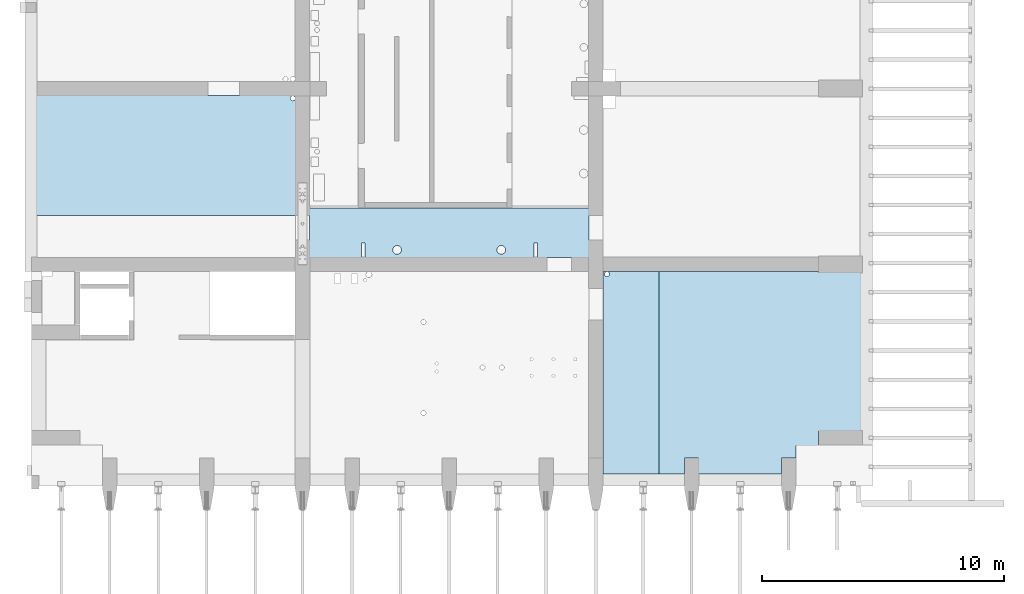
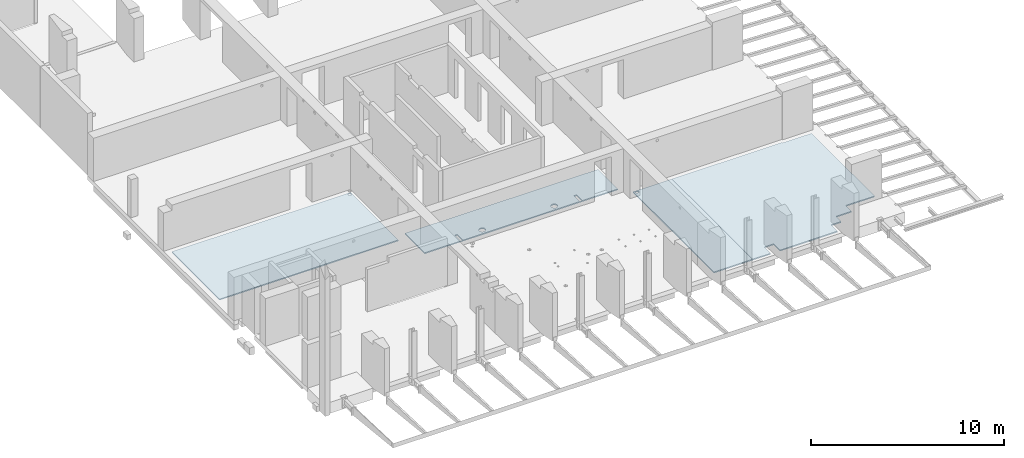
# One storey, part 17 of 27: 4 slabs, 54 openings.
"""IFC2X3 building model written with IfcOpenShell, lengths in millimetres."""

from ifc_helpers import new_model, entity, si_unit, converted_unit, derived_unit, direction, frame, frame_2d, origin, origin_2d_with_axis, place, context, subcontext, project, spatial, polyline, rectangle, circle, outline, extrude, material, layer, layer_set, layer_usage, element, save


model = new_model("IFC2X3")

# Units and contexts
model_context = context("Model", 3, precision=0.01, world=origin(), true_north=direction((6.12303176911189e-17, 1.0)))
body_context = subcontext(model_context, "Body", "Model", "MODEL_VIEW")
ifc_project = project(units=[si_unit("LENGTHUNIT", "METRE", prefix="MILLI"), si_unit("AREAUNIT", "SQUARE_METRE"), si_unit("VOLUMEUNIT", "CUBIC_METRE"), converted_unit("PLANEANGLEUNIT", "DEGREE", entity("IfcRatioMeasure", 0.0174532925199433), si_unit("PLANEANGLEUNIT", "RADIAN"), dimensions=[0, 0, 0, 0, 0, 0, 0]), si_unit("MASSUNIT", "GRAM", prefix="KILO"), derived_unit("MASSDENSITYUNIT", [(si_unit("MASSUNIT", "GRAM", prefix="KILO"), 1), (si_unit("LENGTHUNIT", "METRE"), -3)]), si_unit("TIMEUNIT", "SECOND"), si_unit("FREQUENCYUNIT", "HERTZ"), si_unit("THERMODYNAMICTEMPERATUREUNIT", "DEGREE_CELSIUS"), derived_unit("THERMALTRANSMITTANCEUNIT", [(si_unit("MASSUNIT", "GRAM", prefix="KILO"), 1), (si_unit("THERMODYNAMICTEMPERATUREUNIT", "KELVIN"), -1), (si_unit("TIMEUNIT", "SECOND"), -3)]), derived_unit("VOLUMETRICFLOWRATEUNIT", [(si_unit("LENGTHUNIT", "METRE"), 3), (si_unit("TIMEUNIT", "SECOND"), -1)]), si_unit("ELECTRICCURRENTUNIT", "AMPERE"), si_unit("ELECTRICVOLTAGEUNIT", "VOLT"), si_unit("POWERUNIT", "WATT"), si_unit("FORCEUNIT", "NEWTON", prefix="KILO"), si_unit("ILLUMINANCEUNIT", "LUX"), si_unit("LUMINOUSFLUXUNIT", "LUMEN"), si_unit("LUMINOUSINTENSITYUNIT", "CANDELA"), derived_unit("USERDEFINED", [(si_unit("MASSUNIT", "GRAM", prefix="KILO"), -1), (si_unit("LENGTHUNIT", "METRE"), -2), (si_unit("TIMEUNIT", "SECOND"), 3), (si_unit("LUMINOUSFLUXUNIT", "LUMEN"), 1)]), derived_unit("LINEARVELOCITYUNIT", [(si_unit("LENGTHUNIT", "METRE"), 1), (si_unit("TIMEUNIT", "SECOND"), -1)]), si_unit("PRESSUREUNIT", "PASCAL"), derived_unit("USERDEFINED", [(si_unit("LENGTHUNIT", "METRE"), -2), (si_unit("MASSUNIT", "GRAM", prefix="KILO"), 1), (si_unit("TIMEUNIT", "SECOND"), -2)])], contexts=[model_context])

# Site, building, storey
site_placement = place(None, origin())
site = spatial("IfcSite", under=ifc_project, at=site_placement, Name="Default", CompositionType="ELEMENT")
building_placement = place(site_placement, origin())
building = spatial("IfcBuilding", under=site, at=building_placement, Name="niet gebruiken", CompositionType="ELEMENT")
storey_placement = place(building_placement, frame((0.0, 0.0, 6000.0)))
storey = spatial("IfcBuildingStorey", under=building, at=storey_placement, Name="01 eerste verdieping", CompositionType="ELEMENT", Elevation=6000.0)

# Slab, openings
ifc_material = material(Name="NLRS_f2_beton prefab")
ifc_layer = layer(ifc_material, 70.0)
ifc_layer_set = layer_set([ifc_layer], Name="Floor:NLRS_23.21_FL_breedplaat d=70_gen")
ifc_layer_usage_1 = layer_usage(ifc_layer_set, "AXIS3", "POSITIVE", 0.0)
slab_1_placement = place(storey_placement, frame((124740.0, 1604.0, -360.0)))
slab_1 = element("IfcSlab", 1, at=slab_1_placement, inside=storey, material=ifc_layer_usage_1, Name="Floor:NLRS_23.21_FL_breedplaat d=70_gen:2", ObjectType="Floor:NLRS_23.21_FL_breedplaat d=70_gen", PredefinedType="FLOOR", context=body_context, shape_type="SweptSolid", body=[
    extrude(rectangle(XDim=8356.00000000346, YDim=2309.99999999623, at=frame_2d((-11675.0, -1153.0), x_axis=(0.0, -1.0))), frame((12830.0, 5331.0, 70.0), z_axis=(0.0, 0.0, -1.0), x_axis=(-1.0, 0.0, 0.0)), (0.0, 0.0, 1.0), 70.0000000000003),
])
placement_1 = place(storey_placement, frame((124740.0, 1604.0, -360.0)))
opening_1_placement = place(placement_1, origin())
element("IfcOpeningElement", 2, at=opening_1_placement, cuts=slab_1, ObjectType="Opening", context=body_context, shape_type="SweptSolid", body=[
    extrude(rectangle(XDim=190.000000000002, YDim=400.000000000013, at=origin_2d_with_axis()), frame((425.0, 8251.0, 0.0), z_axis=(0.0, 0.0, 1.0), x_axis=(0.0, -1.0, 0.0)), (0.0, 0.0, 1.0), 270.0),
])
opening_2_placement = place(placement_1, origin())
element("IfcOpeningElement", 3, at=opening_2_placement, cuts=slab_1, ObjectType="Opening", context=body_context, shape_type="SweptSolid", body=[
    extrude(circle(Radius=100.0, at=origin_2d_with_axis()), frame((23520.0, 8246.0, 0.0), z_axis=(0.0, 0.0, 1.0), x_axis=(0.0, -1.0, 0.0)), (0.0, 0.0, 1.0), 270.0),
])
opening_3_placement = place(placement_1, origin())
element("IfcOpeningElement", 4, at=opening_3_placement, cuts=slab_1, ObjectType="Opening", context=body_context, shape_type="SweptSolid", body=[
    extrude(rectangle(XDim=249.999999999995, YDim=380.000000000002, at=origin_2d_with_axis()), frame((12395.0, 8056.0, 0.0), z_axis=(0.0, 0.0, 1.0), x_axis=(-1.0, 0.0, 0.0)), (0.0, 0.0, 1.0), 270.0),
])
opening_4_placement = place(placement_1, origin())
element("IfcOpeningElement", 5, at=opening_4_placement, cuts=slab_1, ObjectType="Opening", context=body_context, shape_type="SweptSolid", body=[
    extrude(circle(Radius=62.5, at=origin_2d_with_axis()), frame((13540.0, 7996.0, 0.0)), (0.0, 0.0, 1.0), 270.0),
])
opening_5_placement = place(placement_1, origin())
element("IfcOpeningElement", 6, at=opening_5_placement, cuts=slab_1, ObjectType="Opening", context=body_context, shape_type="SweptSolid", body=[
    extrude(circle(Radius=120.0, at=origin_2d_with_axis()), frame((13700.0, 8226.0, 0.0)), (0.0, 0.0, 1.0), 270.0),
])
opening_6_placement = place(placement_1, origin())
element("IfcOpeningElement", 7, at=opening_6_placement, cuts=slab_1, ObjectType="Opening", context=body_context, shape_type="SweptSolid", body=[
    extrude(rectangle(XDim=249.999999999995, YDim=380.000000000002, at=origin_2d_with_axis()), frame((13105.0, 8056.0, 0.0), z_axis=(0.0, 0.0, 1.0), x_axis=(-1.0, 0.0, 0.0)), (0.0, 0.0, 1.0), 270.0),
])
opening_7_placement = place(placement_1, origin())
element("IfcOpeningElement", 8, at=opening_7_placement, cuts=slab_1, ObjectType="Opening", context=body_context, shape_type="SweptSolid", body=[
    extrude(circle(Radius=100.0, at=origin_2d_with_axis()), frame((15950.0, 6271.0, 0.0), z_axis=(0.0, 0.0, 1.0), x_axis=(-1.0, 0.0, 0.0)), (0.0, 0.0, 1.0), 270.0),
])
opening_8_placement = place(placement_1, origin())
element("IfcOpeningElement", 9, at=opening_8_placement, cuts=slab_1, ObjectType="Opening", context=body_context, shape_type="SweptSolid", body=[
    extrude(circle(Radius=100.0, at=origin_2d_with_axis()), frame((15950.0, 2521.0, 0.0), z_axis=(0.0, 0.0, 1.0), x_axis=(-1.0, 0.0, 0.0)), (0.0, 0.0, 1.0), 270.0),
])
opening_9_placement = place(placement_1, origin())
element("IfcOpeningElement", 10, at=opening_9_placement, cuts=slab_1, ObjectType="Opening", context=body_context, shape_type="SweptSolid", body=[
    extrude(circle(Radius=100.0, at=origin_2d_with_axis()), frame((19185.0, 4396.0, 0.0), z_axis=(0.0, 0.0, 1.0), x_axis=(-1.0, 0.0, 0.0)), (0.0, 0.0, 1.0), 270.0),
])
opening_10_placement = place(placement_1, origin())
element("IfcOpeningElement", 11, at=opening_10_placement, cuts=slab_1, ObjectType="Opening", context=body_context, shape_type="SweptSolid", body=[
    extrude(circle(Radius=100.0, at=origin_2d_with_axis()), frame((18385.0, 4396.0, 0.0), z_axis=(0.0, 0.0, 1.0), x_axis=(-1.0, 0.0, 0.0)), (0.0, 0.0, 1.0), 270.0),
])
opening_11_placement = place(placement_1, origin())
element("IfcOpeningElement", 12, at=opening_11_placement, cuts=slab_1, ObjectType="Opening", context=body_context, shape_type="SweptSolid", body=[
    extrude(circle(Radius=60.0, at=origin_2d_with_axis()), frame((22210.0, 4736.0, 0.0), z_axis=(0.0, 0.0, 1.0), x_axis=(-1.0, 0.0, 0.0)), (0.0, 0.0, 1.0), 270.0),
])
opening_12_placement = place(placement_1, origin())
element("IfcOpeningElement", 13, at=opening_12_placement, cuts=slab_1, ObjectType="Opening", context=body_context, shape_type="SweptSolid", body=[
    extrude(circle(Radius=60.0, at=origin_2d_with_axis()), frame((21310.0, 4736.0, 0.0), z_axis=(0.0, 0.0, 1.0), x_axis=(-1.0, 0.0, 0.0)), (0.0, 0.0, 1.0), 270.0),
])
opening_13_placement = place(placement_1, origin())
element("IfcOpeningElement", 14, at=opening_13_placement, cuts=slab_1, ObjectType="Opening", context=body_context, shape_type="SweptSolid", body=[
    extrude(circle(Radius=60.0, at=origin_2d_with_axis()), frame((20410.0, 4736.0, 0.0), z_axis=(0.0, 0.0, 1.0), x_axis=(-1.0, 0.0, 0.0)), (0.0, 0.0, 1.0), 270.0),
])
opening_14_placement = place(placement_1, origin())
element("IfcOpeningElement", 15, at=opening_14_placement, cuts=slab_1, ObjectType="Opening", context=body_context, shape_type="SweptSolid", body=[
    extrude(circle(Radius=60.0, at=origin_2d_with_axis()), frame((16490.0, 4231.0, 0.0), z_axis=(0.0, 0.0, 1.0), x_axis=(-1.0, 0.0, 0.0)), (0.0, 0.0, 1.0), 270.0),
])
opening_15_placement = place(placement_1, origin())
element("IfcOpeningElement", 16, at=opening_15_placement, cuts=slab_1, ObjectType="Opening", context=body_context, shape_type="SweptSolid", body=[
    extrude(circle(Radius=60.0, at=origin_2d_with_axis()), frame((16490.0, 4561.0, 0.0), z_axis=(0.0, 0.0, 1.0), x_axis=(-1.0, 0.0, 0.0)), (0.0, 0.0, 1.0), 270.0),
])
opening_16_placement = place(placement_1, origin())
element("IfcOpeningElement", 17, at=opening_16_placement, cuts=slab_1, ObjectType="Opening", context=body_context, shape_type="SweptSolid", body=[
    extrude(circle(Radius=60.0, at=origin_2d_with_axis()), frame((21310.0, 4056.0, 0.0), z_axis=(0.0, 0.0, 1.0), x_axis=(-1.0, 0.0, 0.0)), (0.0, 0.0, 1.0), 270.0),
])
opening_17_placement = place(placement_1, origin())
element("IfcOpeningElement", 18, at=opening_17_placement, cuts=slab_1, ObjectType="Opening", context=body_context, shape_type="SweptSolid", body=[
    extrude(circle(Radius=60.0, at=origin_2d_with_axis()), frame((20410.0, 4056.0, 0.0), z_axis=(0.0, 0.0, 1.0), x_axis=(-1.0, 0.0, 0.0)), (0.0, 0.0, 1.0), 270.0),
])
opening_18_placement = place(placement_1, origin())
element("IfcOpeningElement", 19, at=opening_18_placement, cuts=slab_1, ObjectType="Opening", context=body_context, shape_type="SweptSolid", body=[
    extrude(circle(Radius=60.0, at=origin_2d_with_axis()), frame((22210.0, 4056.0, 0.0), z_axis=(0.0, 0.0, 1.0), x_axis=(-1.0, 0.0, 0.0)), (0.0, 0.0, 1.0), 270.0),
])

ifc_layer_usage_2 = layer_usage(ifc_layer_set, "AXIS3", "POSITIVE", 0.0)
slab_2_placement = place(storey_placement, frame((148090.0, 1604.0, -360.0)))
slab_2 = element("IfcSlab", 20, at=slab_2_placement, inside=storey, material=ifc_layer_usage_2, Name="Floor:NLRS_23.21_FL_breedplaat d=70_gen:2", ObjectType="Floor:NLRS_23.21_FL_breedplaat d=70_gen", PredefinedType="FLOOR", context=body_context, shape_type="SweptSolid", body=[
    extrude(outline(polyline([(-3590.0, -4562.0), (-3590.0, -4612.0), (-5310.0, -4612.0), (-5310.0, -11132.0), (-3590.0, -11132.0), (-3590.0, -11732.0), (-2660.0, -11732.0), (-2660.0, -12262.0), (-2060.0, -12262.0), (-2060.0, -12918.0), (1360.0, -12918.0), (1360.0, -12262.0), (1940.0, -12262.0), (1940.0, -12918.0), (3000.0, -12918.0), (3000.0, -4562.0), (-3590.0, -4562.0)])), frame((5310.0, 12918.0, 70.0), z_axis=(0.0, 0.0, -1.0), x_axis=(-1.0, 0.0, 0.0)), (0.0, 0.0, 1.0), 70.0000000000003),
])
placement_2 = place(storey_placement, frame((148090.0, 1604.0, -360.0)))
opening_19_placement = place(placement_2, origin())
element("IfcOpeningElement", 21, at=opening_19_placement, cuts=slab_2, ObjectType="Opening", context=body_context, shape_type="SweptSolid", body=[
    extrude(circle(Radius=62.5, at=origin_2d_with_axis()), frame((160.0, 23696.0, 0.0), z_axis=(0.0, 0.0, 1.0), x_axis=(0.0, -1.0, 0.0)), (0.0, 0.0, 1.0), 270.0),
])
opening_20_placement = place(placement_2, origin())
element("IfcOpeningElement", 22, at=opening_20_placement, cuts=slab_2, ObjectType="Opening", context=body_context, shape_type="SweptSolid", body=[
    extrude(rectangle(XDim=500.000000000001, YDim=500.000000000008, at=origin_2d_with_axis()), frame((260.0, 16446.0, 0.0), z_axis=(0.0, 0.0, 1.0), x_axis=(0.0, 1.0, 0.0)), (0.0, 0.0, 1.0), 270.0),
])
opening_21_placement = place(placement_2, origin())
element("IfcOpeningElement", 23, at=opening_21_placement, cuts=slab_2, ObjectType="Opening", context=body_context, shape_type="SweptSolid", body=[
    extrude(rectangle(XDim=500.000000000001, YDim=500.000000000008, at=origin_2d_with_axis()), frame((260.0, 15346.0, 0.0), z_axis=(0.0, 0.0, 1.0), x_axis=(0.0, 1.0, 0.0)), (0.0, 0.0, 1.0), 270.0),
])
opening_22_placement = place(placement_2, origin())
element("IfcOpeningElement", 24, at=opening_22_placement, cuts=slab_2, ObjectType="Opening", context=body_context, shape_type="SweptSolid", body=[
    extrude(circle(Radius=100.0, at=origin_2d_with_axis()), frame((310.0, 23546.0, 0.0), z_axis=(0.0, 0.0, 1.0), x_axis=(0.0, -1.0, 0.0)), (0.0, 0.0, 1.0), 270.0),
])

ifc_layer_usage_3 = layer_usage(ifc_layer_set, "AXIS3", "POSITIVE", 0.0)
slab_3_placement = place(storey_placement, frame((124740.0, 12266.0, -360.0)))
slab_3 = element("IfcSlab", 25, at=slab_3_placement, inside=storey, material=ifc_layer_usage_3, Name="Floor:NLRS_23.21_FL_breedplaat d=70_gen:3", ObjectType="Floor:NLRS_23.21_FL_breedplaat d=70_gen", PredefinedType="FLOOR", context=body_context, shape_type="SweptSolid", body=[
    extrude(rectangle(XDim=10669.9999999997, YDim=4944.00000000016, at=frame_2d((0.0, -7765.0), x_axis=(-1.0, 0.0))), frame((5335.0, 10237.0, 70.0), z_axis=(0.0, 0.0, -1.0), x_axis=(-1.0, 0.0, 0.0)), (0.0, 0.0, 1.0), 70.0000000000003),
])
placement_3 = place(storey_placement, frame((124740.0, 12266.0, -360.0)))
opening_23_placement = place(placement_3, origin())
element("IfcOpeningElement", 26, at=opening_23_placement, cuts=slab_3, ObjectType="Opening", context=body_context, shape_type="SweptSolid", body=[
    extrude(circle(Radius=100.0, at=origin_2d_with_axis()), frame((10560.0, 4834.0, 0.0), z_axis=(0.0, 0.0, 1.0), x_axis=(0.0, -1.0, 0.0)), (0.0, 0.0, 1.0), 270.0),
])
opening_24_placement = place(placement_3, origin())
element("IfcOpeningElement", 27, at=opening_24_placement, cuts=slab_3, ObjectType="Opening", context=body_context, shape_type="SweptSolid", body=[
    extrude(circle(Radius=100.0, at=origin_2d_with_axis()), frame((10560.0, 5634.0, 0.0), z_axis=(0.0, 0.0, 1.0), x_axis=(0.0, -1.0, 0.0)), (0.0, 0.0, 1.0), 270.0),
])
opening_25_placement = place(placement_3, origin())
element("IfcOpeningElement", 28, at=opening_25_placement, cuts=slab_3, ObjectType="Opening", context=body_context, shape_type="SweptSolid", body=[
    extrude(circle(Radius=100.0, at=origin_2d_with_axis()), frame((10260.0, 5634.0, 0.0), z_axis=(0.0, 0.0, 1.0), x_axis=(0.0, -1.0, 0.0)), (0.0, 0.0, 1.0), 270.0),
])
opening_26_placement = place(placement_3, origin())
element("IfcOpeningElement", 29, at=opening_26_placement, cuts=slab_3, ObjectType="Opening", context=body_context, shape_type="SweptSolid", body=[
    extrude(circle(Radius=100.0, at=origin_2d_with_axis()), frame((1880.0, 12884.0, 0.0), z_axis=(0.0, 0.0, 1.0), x_axis=(-1.0, 0.0, 0.0)), (0.0, 0.0, 1.0), 270.0),
])

ifc_layer_usage_4 = layer_usage(ifc_layer_set, "AXIS3", "POSITIVE", 0.0)
slab_4_placement = place(storey_placement, frame((135990.0, 10540.0, -330.0)))
slab_4 = element("IfcSlab", 30, at=slab_4_placement, inside=storey, material=ifc_layer_usage_4, Name="Floor:NLRS_23.21_FL_breedplaat d=70_gen:2", ObjectType="Floor:NLRS_23.21_FL_breedplaat d=70_gen", PredefinedType="FLOOR", context=body_context, shape_type="SweptSolid", body=[
    extrude(rectangle(XDim=2039.99999999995, YDim=11520.0, at=frame_2d((0.0, -5940.0), x_axis=(0.0, 1.0))), frame((5760.0, 6960.0, 70.0), z_axis=(0.0, 0.0, -1.0), x_axis=(-1.0, 0.0, 0.0)), (0.0, 0.0, 1.0), 70.0000000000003),
])
placement_4 = place(storey_placement, frame((135990.0, 10540.0, -330.0)))
opening_27_placement = place(placement_4, origin())
element("IfcOpeningElement", 31, at=opening_27_placement, cuts=slab_4, ObjectType="Opening", context=body_context, shape_type="SweptSolid", body=[
    extrude(circle(Radius=225.0, at=origin_2d_with_axis()), frame((8485.0, 13610.0, 0.0), z_axis=(0.0, 0.0, 1.0), x_axis=(-1.0, 0.0, 0.0)), (0.0, 0.0, 1.0), 240.0),
])
opening_28_placement = place(placement_4, origin())
element("IfcOpeningElement", 32, at=opening_28_placement, cuts=slab_4, ObjectType="Opening", context=body_context, shape_type="SweptSolid", body=[
    extrude(circle(Radius=100.0, at=origin_2d_with_axis()), frame((5135.0, 13810.0, 0.0), z_axis=(0.0, 0.0, 1.0), x_axis=(-1.0, 0.0, 0.0)), (0.0, 0.0, 1.0), 240.0),
])
opening_29_placement = place(placement_4, origin())
element("IfcOpeningElement", 33, at=opening_29_placement, cuts=slab_4, ObjectType="Opening", context=body_context, shape_type="SweptSolid", body=[
    extrude(circle(Radius=100.0, at=origin_2d_with_axis()), frame((5345.0, 13810.0, 0.0), z_axis=(0.0, 0.0, 1.0), x_axis=(-1.0, 0.0, 0.0)), (0.0, 0.0, 1.0), 240.0),
])
opening_30_placement = place(placement_4, origin())
element("IfcOpeningElement", 34, at=opening_30_placement, cuts=slab_4, ObjectType="Opening", context=body_context, shape_type="SweptSolid", body=[
    extrude(circle(Radius=100.0, at=origin_2d_with_axis()), frame((310.0, 4365.0, 0.0), z_axis=(0.0, 0.0, 1.0), x_axis=(0.0, 1.0, 0.0)), (0.0, 0.0, 1.0), 240.0),
])
opening_31_placement = place(placement_4, origin())
element("IfcOpeningElement", 35, at=opening_31_placement, cuts=slab_4, ObjectType="Opening", context=body_context, shape_type="SweptSolid", body=[
    extrude(rectangle(XDim=150.000000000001, YDim=590.000000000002, at=origin_2d_with_axis()), frame((2210.0, 305.0, 0.0)), (0.0, 0.0, 1.0), 240.0),
])
opening_32_placement = place(placement_4, origin())
element("IfcOpeningElement", 36, at=opening_32_placement, cuts=slab_4, ObjectType="Opening", context=body_context, shape_type="SweptSolid", body=[
    extrude(circle(Radius=177.5, at=origin_2d_with_axis()), frame((11310.0, 3461.0, 0.0), z_axis=(0.0, 0.0, 1.0), x_axis=(0.0, 1.0, 0.0)), (0.0, 0.0, 1.0), 240.0),
])
opening_33_placement = place(placement_4, origin())
element("IfcOpeningElement", 37, at=opening_33_placement, cuts=slab_4, ObjectType="Opening", context=body_context, shape_type="SweptSolid", body=[
    extrude(rectangle(XDim=1000.0, YDim=400.000000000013, at=origin_2d_with_axis()), frame((210.0, 6160.0, 0.0), z_axis=(0.0, 0.0, 1.0), x_axis=(0.0, -1.0, 0.0)), (0.0, 0.0, 1.0), 240.0),
])
opening_34_placement = place(placement_4, origin())
element("IfcOpeningElement", 38, at=opening_34_placement, cuts=slab_4, ObjectType="Opening", context=body_context, shape_type="SweptSolid", body=[
    extrude(rectangle(XDim=400.000000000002, YDim=300.000000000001, at=origin_2d_with_axis()), frame((210.0, 4730.0, 0.0), z_axis=(0.0, 0.0, 1.0), x_axis=(0.0, -1.0, 0.0)), (0.0, 0.0, 1.0), 240.0),
])
opening_35_placement = place(placement_4, origin())
element("IfcOpeningElement", 39, at=opening_35_placement, cuts=slab_4, ObjectType="Opening", context=body_context, shape_type="SweptSolid", body=[
    extrude(rectangle(XDim=1190.0, YDim=400.000000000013, at=origin_2d_with_axis()), frame((210.0, 7855.0, 0.0), z_axis=(0.0, 0.0, 1.0), x_axis=(0.0, -1.0, 0.0)), (0.0, 0.0, 1.0), 240.0),
])
opening_36_placement = place(placement_4, origin())
element("IfcOpeningElement", 40, at=opening_36_placement, cuts=slab_4, ObjectType="Opening", context=body_context, shape_type="SweptSolid", body=[
    extrude(rectangle(XDim=400.000000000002, YDim=300.000000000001, at=origin_2d_with_axis()), frame((210.0, 8910.0, 0.0), z_axis=(0.0, 0.0, 1.0), x_axis=(0.0, -1.0, 0.0)), (0.0, 0.0, 1.0), 240.0),
])
opening_37_placement = place(placement_4, origin())
element("IfcOpeningElement", 41, at=opening_37_placement, cuts=slab_4, ObjectType="Opening", context=body_context, shape_type="SweptSolid", body=[
    extrude(rectangle(XDim=1200.0, YDim=450.000000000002, at=origin_2d_with_axis()), frame((385.0, 11040.0, 0.0), z_axis=(0.0, 0.0, 1.0), x_axis=(0.0, -1.0, 0.0)), (0.0, 0.0, 1.0), 240.0),
])
opening_38_placement = place(placement_4, origin())
element("IfcOpeningElement", 42, at=opening_38_placement, cuts=slab_4, ObjectType="Opening", context=body_context, shape_type="SweptSolid", body=[
    extrude(rectangle(XDim=600.000000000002, YDim=155.000000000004, at=origin_2d_with_axis()), frame((11210.0, 6582.49999999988, 0.0)), (0.0, 0.0, 1.0), 240.0),
])
opening_39_placement = place(placement_4, origin())
element("IfcOpeningElement", 43, at=opening_39_placement, cuts=slab_4, ObjectType="Opening", context=body_context, shape_type="SweptSolid", body=[
    extrude(rectangle(XDim=489.999999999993, YDim=150.000000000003, at=origin_2d_with_axis()), frame((11265.0, 7335.0, 0.0)), (0.0, 0.0, 1.0), 240.0),
])
opening_40_placement = place(placement_4, origin())
element("IfcOpeningElement", 44, at=opening_40_placement, cuts=slab_4, ObjectType="Opening", context=body_context, shape_type="SweptSolid", body=[
    extrude(rectangle(XDim=150.000000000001, YDim=590.000000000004, at=origin_2d_with_axis()), frame((9325.0, 13615.0, 0.0)), (0.0, 0.0, 1.0), 240.0),
])
opening_41_placement = place(placement_4, origin())
element("IfcOpeningElement", 45, at=opening_41_placement, cuts=slab_4, ObjectType="Opening", context=body_context, shape_type="SweptSolid", body=[
    extrude(rectangle(XDim=150.000000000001, YDim=590.000000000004, at=origin_2d_with_axis()), frame((2205.0, 13615.0, 0.0)), (0.0, 0.0, 1.0), 240.0),
])
opening_42_placement = place(placement_4, origin())
element("IfcOpeningElement", 46, at=opening_42_placement, cuts=slab_4, ObjectType="Opening", context=body_context, shape_type="SweptSolid", body=[
    extrude(circle(Radius=157.5, at=origin_2d_with_axis()), frame((11310.0, 10460.0, 0.0), z_axis=(0.0, 0.0, 1.0), x_axis=(0.0, 1.0, 0.0)), (0.0, 0.0, 1.0), 240.0),
])
opening_43_placement = place(placement_4, origin())
element("IfcOpeningElement", 47, at=opening_43_placement, cuts=slab_4, ObjectType="Opening", context=body_context, shape_type="SweptSolid", body=[
    extrude(circle(Radius=157.5, at=origin_2d_with_axis()), frame((11310.0, 8665.0, 0.0), z_axis=(0.0, 0.0, 1.0), x_axis=(0.0, 1.0, 0.0)), (0.0, 0.0, 1.0), 240.0),
])
opening_44_placement = place(placement_4, origin())
element("IfcOpeningElement", 48, at=opening_44_placement, cuts=slab_4, ObjectType="Opening", context=body_context, shape_type="SweptSolid", body=[
    extrude(rectangle(XDim=550.000000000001, YDim=140.000000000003, at=origin_2d_with_axis()), frame((11440.0, 7830.0, 0.0), z_axis=(0.0, 0.0, 1.0), x_axis=(0.0, -1.0, 0.0)), (0.0, 0.0, 1.0), 240.0),
])
opening_45_placement = place(placement_4, origin())
element("IfcOpeningElement", 49, at=opening_45_placement, cuts=slab_4, ObjectType="Opening", context=body_context, shape_type="SweptSolid", body=[
    extrude(circle(Radius=177.5, at=origin_2d_with_axis()), frame((11310.0, 5255.0, 0.0), z_axis=(0.0, 0.0, 1.0), x_axis=(0.0, 1.0, 0.0)), (0.0, 0.0, 1.0), 240.0),
])
opening_46_placement = place(placement_4, origin())
element("IfcOpeningElement", 50, at=opening_46_placement, cuts=slab_4, ObjectType="Opening", context=body_context, shape_type="SweptSolid", body=[
    extrude(rectangle(XDim=150.000000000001, YDim=590.000000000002, at=origin_2d_with_axis()), frame((9335.0, 305.0, 0.0)), (0.0, 0.0, 1.0), 240.0),
])
opening_47_placement = place(placement_4, origin())
element("IfcOpeningElement", 51, at=opening_47_placement, cuts=slab_4, ObjectType="Opening", context=body_context, shape_type="SweptSolid", body=[
    extrude(circle(Radius=177.5, at=origin_2d_with_axis()), frame((7910.0, 310.0, 0.0), z_axis=(0.0, 0.0, 1.0), x_axis=(-1.0, 0.0, 0.0)), (0.0, 0.0, 1.0), 240.0),
])
opening_48_placement = place(placement_4, origin())
element("IfcOpeningElement", 52, at=opening_48_placement, cuts=slab_4, ObjectType="Opening", context=body_context, shape_type="SweptSolid", body=[
    extrude(circle(Radius=177.5, at=origin_2d_with_axis()), frame((3610.0, 310.0, 0.0), z_axis=(0.0, 0.0, 1.0), x_axis=(-1.0, 0.0, 0.0)), (0.0, 0.0, 1.0), 240.0),
])
opening_49_placement = place(placement_4, origin())
element("IfcOpeningElement", 53, at=opening_49_placement, cuts=slab_4, ObjectType="Opening", context=body_context, shape_type="SweptSolid", body=[
    extrude(rectangle(XDim=1129.0, YDim=450.000000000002, at=origin_2d_with_axis()), frame((385.0, 2884.49999999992, 0.0), z_axis=(0.0, 0.0, 1.0), x_axis=(0.0, -1.0, 0.0)), (0.0, 0.0, 1.0), 240.0),
])
opening_50_placement = place(placement_4, origin())
element("IfcOpeningElement", 54, at=opening_50_placement, cuts=slab_4, ObjectType="Opening", context=body_context, shape_type="SweptSolid", body=[
    extrude(rectangle(XDim=400.000000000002, YDim=300.000000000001, at=origin_2d_with_axis()), frame((210.0, 3943.0, 0.0), z_axis=(0.0, 0.0, 1.0), x_axis=(0.0, -1.0, 0.0)), (0.0, 0.0, 1.0), 240.0),
])
opening_51_placement = place(placement_4, origin())
element("IfcOpeningElement", 55, at=opening_51_placement, cuts=slab_4, ObjectType="Opening", context=body_context, shape_type="SweptSolid", body=[
    extrude(circle(Radius=225.0, at=origin_2d_with_axis()), frame((6345.0, 13610.0, 0.0), z_axis=(0.0, 0.0, 1.0), x_axis=(-1.0, 0.0, 0.0)), (0.0, 0.0, 1.0), 240.0),
])
opening_52_placement = place(placement_4, origin())
element("IfcOpeningElement", 56, at=opening_52_placement, cuts=slab_4, ObjectType="Opening", context=body_context, shape_type="SweptSolid", body=[
    extrude(circle(Radius=100.0, at=origin_2d_with_axis()), frame((310.0, 9380.0, 0.0), z_axis=(0.0, 0.0, 1.0), x_axis=(0.0, 1.0, 0.0)), (0.0, 0.0, 1.0), 240.0),
])
opening_53_placement = place(placement_4, origin())
element("IfcOpeningElement", 57, at=opening_53_placement, cuts=slab_4, ObjectType="Opening", context=body_context, shape_type="SweptSolid", body=[
    extrude(circle(Radius=100.0, at=origin_2d_with_axis()), frame((310.0, 9655.0, 0.0), z_axis=(0.0, 0.0, 1.0), x_axis=(0.0, 1.0, 0.0)), (0.0, 0.0, 1.0), 240.0),
])
opening_54_placement = place(placement_4, origin())
element("IfcOpeningElement", 58, at=opening_54_placement, cuts=slab_4, ObjectType="Opening", context=body_context, shape_type="SweptSolid", body=[
    extrude(rectangle(XDim=400.0, YDim=300.000000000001, at=origin_2d_with_axis()), frame((210.0, 9980.0, 0.0), z_axis=(0.0, 0.0, 1.0), x_axis=(0.0, -1.0, 0.0)), (0.0, 0.0, 1.0), 240.0),
])

save(model, "model.ifc")
